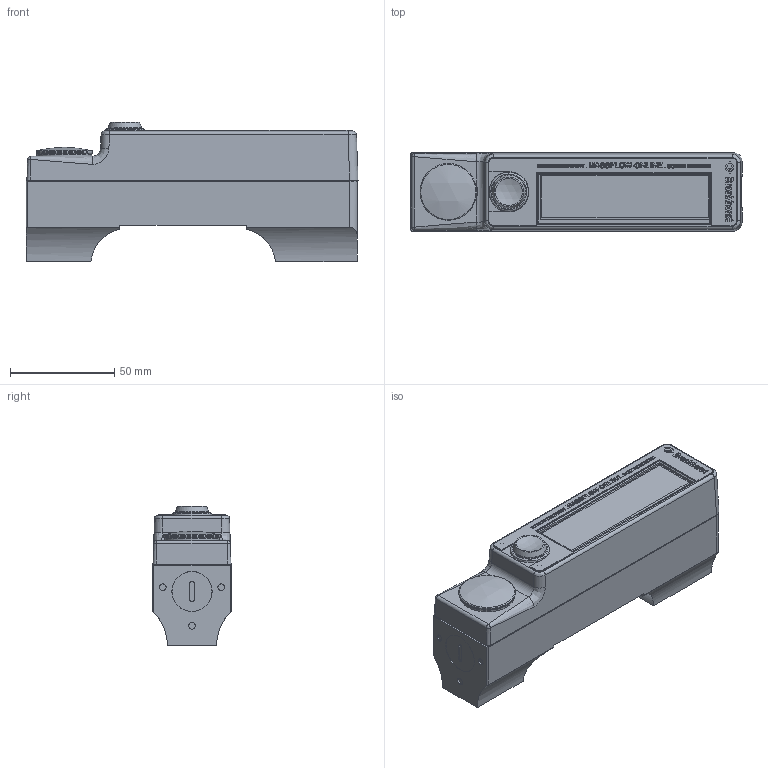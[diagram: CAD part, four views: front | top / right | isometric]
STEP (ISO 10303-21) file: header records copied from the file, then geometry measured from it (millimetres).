
FILE_DESCRIPTION(/* description */ (''),/* implementation_level */ '2;1');
FILE_NAME(/* name */ 'C:\Users\M-Huiskes\Desktop\MV-1XX.stp',/* time_stamp */ '2015-10-12T13:17:58+02:00',/* author */ ('M-Huiskes'),/* organization */ (''),/* preprocessor_version */ 'ST-DEVELOPER v15.6',/* originating_system */ 'Autodesk Inventor 2015',/* authorisation */ '');
FILE_SCHEMA (('CONFIG_CONTROL_DESIGN'));
Length unit declared in the file: millimetre
Products named in the file (1): Part10
Bounding box: 159.29 x 37.5 x 66.8 mm (x, y, z)
Volume: 283064.1 mm3; surface area: 35598.1 mm2
Topology: 1 solids, 9 shells, 655 faces, 1676 edges, 1111 vertices
Faces by surface type: plane 420, bspline 153, cylinder 56, cone 20, torus 4, sphere 2
Full cylindrical faces by diameter (mm): 2.8 x1, 3 x1, 3.242 x3, 5.2 x1, 5.5 x1, 11.445 x2, 16 x1, 19.2 x2, 19.3 x2, 21.2 x2, 26.5 x1, 27.2 x1
Entity records: 21160 total; most frequent: CARTESIAN_POINT 5703, ORIENTED_EDGE 3252, DIRECTION 2477, EDGE_CURVE 1626, LINE 1173, VECTOR 1173, VERTEX_POINT 1098, EDGE_LOOP 764
